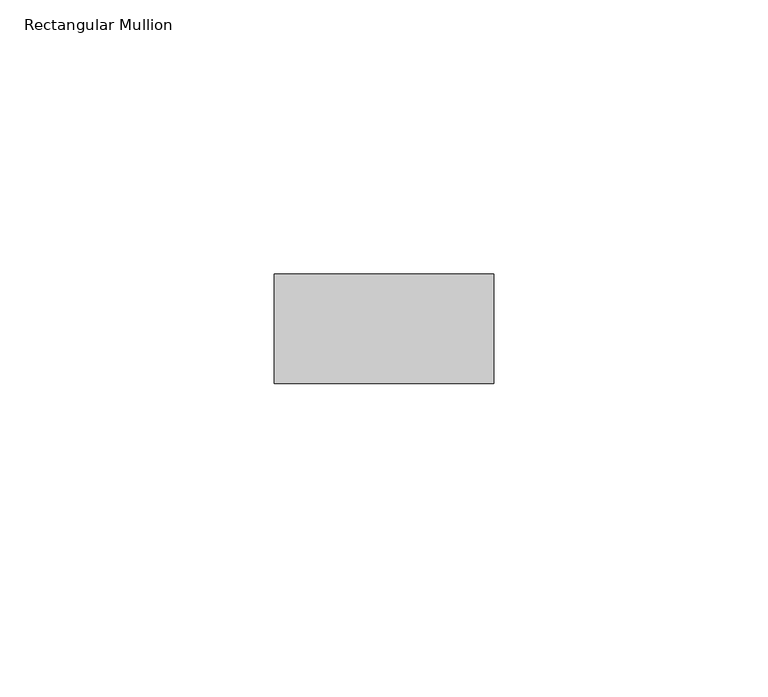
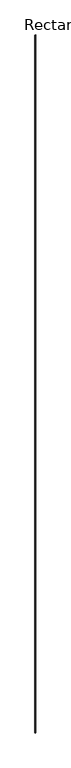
"""IFC4 building model written with IfcOpenShell, lengths in millimetres: member geometry, Rectangular Mullion : RIPA 4x2 cm."""

from ifc_helpers import new_model, si_unit, frame, origin, place, context, project, spatial, polyline, outline, extrude, source, transform, mapped, element, save


def rectangular_mullion_6428f46a(model_context):
    return source(origin(), model_context, "Body", "SweptSolid", [
        extrude(outline(polyline([(20.0, 0.0), (20.0, -20.0), (-20.0, -20.0), (-20.0, 0.0), (20.0, 0.0)])), frame((0.0, 0.0, -40465.0717614), z_axis=(0.0, 0.0, 1.0), x_axis=(1.0, 0.0, 0.0)), (0.0, 0.0, 1.0), 40465.0717614),
    ])


if __name__ == "__main__":
    model = new_model("IFC4")
    model_context = context("Model", 3, world=origin())
    ifc_project = project(units=[si_unit("LENGTHUNIT", "METRE", prefix="MILLI")], contexts=[model_context])
    site = spatial("IfcSite", under=ifc_project)
    building = spatial("IfcBuilding", under=site)
    placement = place(None, origin())
    rectangular_mullion_shape = rectangular_mullion_6428f46a(model_context)
    element("IfcMember", 1, ObjectType="Rectangular Mullion : RIPA 4x2 cm", at=placement, inside=building, context=model_context, shape_type="MappedRepresentation", body=[
        mapped(rectangular_mullion_shape, transform((0.0, 0.0, 0.0), x_axis=(1.0, 0.0, 0.0), y_axis=(0.0, 1.0, 0.0), z_axis=(0.0, 0.0, 1.0))),
    ])
    save(model, "model.ifc")
